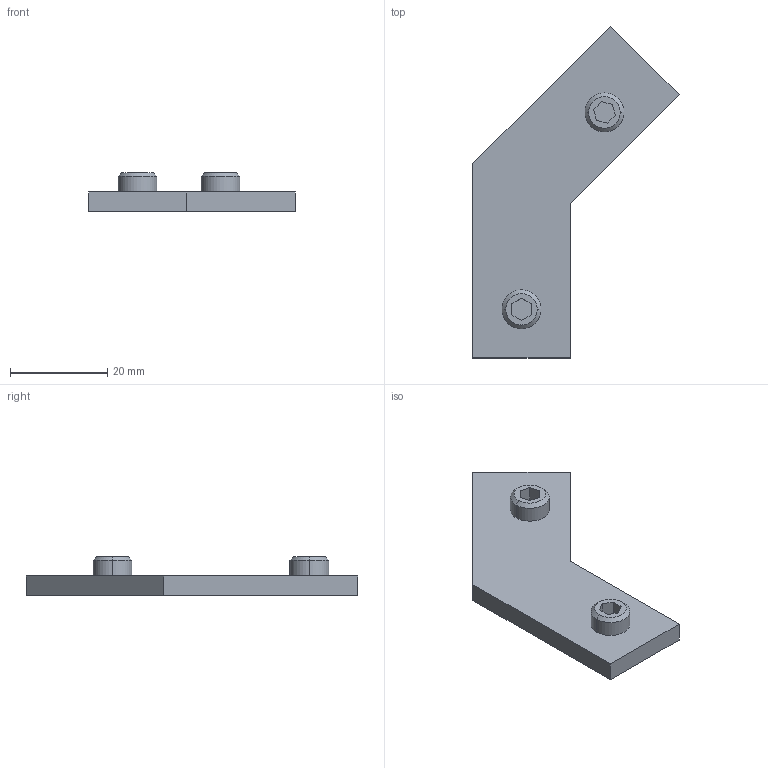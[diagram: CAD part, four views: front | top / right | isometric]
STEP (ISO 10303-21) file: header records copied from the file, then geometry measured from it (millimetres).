
FILE_DESCRIPTION (( 'STEP AP214' ), '1' );
FILE_NAME ('FBRW 20X45.step', '2017-04-05T08:03:00', ( '' ), ( '' ), 'SwSTEP 2.0', 'SolidWorks 2015', '' );
FILE_SCHEMA (( 'AUTOMOTIVE_DESIGN' ));
Length unit declared in the file: millimetre
Products named in the file (1): FBRW 20X45
Bounding box: 42.43 x 68.28 x 8 mm (x, y, z)
Volume: 5975.5 mm3; surface area: 3963.1 mm2
Topology: 1 solids, 1 shells, 42 faces, 96 edges, 62 vertices
Faces by surface type: plane 26, cylinder 8, cone 8
Entity records: 1509 total; most frequent: DIRECTION 208, CARTESIAN_POINT 201, ORIENTED_EDGE 192, EDGE_CURVE 96, VECTOR 70, LINE 70, AXIS2_PLACEMENT_3D 69, VERTEX_POINT 62
